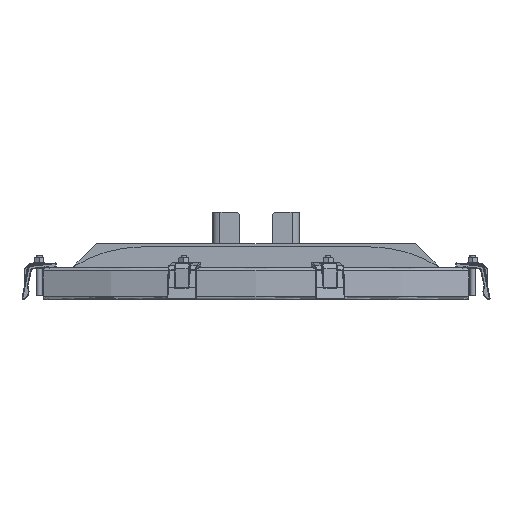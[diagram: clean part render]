
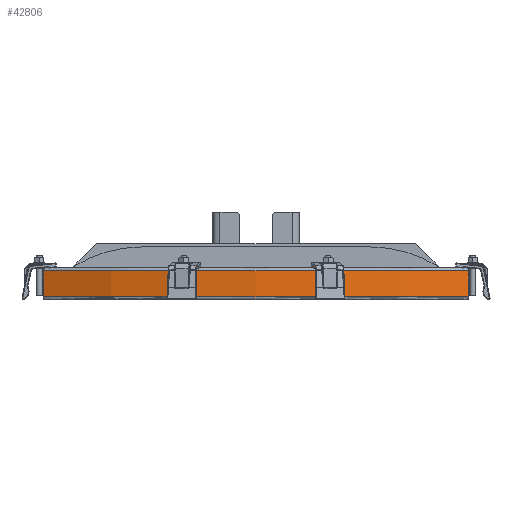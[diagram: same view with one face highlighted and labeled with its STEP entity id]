
A CAD part, front view. The second image highlights one B-rep face of the part: STEP entity #42806.
In plain terms, the highlighted cylindrical face has radius 672 mm (diameter 1344 mm), a partial arc.
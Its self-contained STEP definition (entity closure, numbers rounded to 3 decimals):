
#23 = VERTEX_POINT ( 'NONE', #27190 ) ;
#700 = EDGE_CURVE ( 'NONE', #22578, #2023, #33672, .T. ) ;
#2023 = VERTEX_POINT ( 'NONE', #22561 ) ;
#10349 = CYLINDRICAL_SURFACE ( 'NONE', #64471, 672. ) ;
#11299 = ORIENTED_EDGE ( 'NONE', *, *, #66520, .F. ) ;
#12858 = EDGE_CURVE ( 'NONE', #2023, #48007, #51920, .T. ) ;
#15498 = DIRECTION ( 'NONE',  ( 0., 0., -1. ) ) ;
#15499 = CARTESIAN_POINT ( 'NONE',  ( 0., 660., 0. ) ) ;
#16938 = FACE_OUTER_BOUND ( 'NONE', #28403, .T. ) ;
#17103 = LINE ( 'NONE', #56278, #68334 ) ;
#22339 = ORIENTED_EDGE ( 'NONE', *, *, #28436, .F. ) ;
#22561 = CARTESIAN_POINT ( 'NONE',  ( -295.273, 56.346, 40. ) ) ;
#22578 = VERTEX_POINT ( 'NONE', #34555 ) ;
#27190 = CARTESIAN_POINT ( 'NONE',  ( 295.273, 56.346, 4. ) ) ;
#28029 = AXIS2_PLACEMENT_3D ( 'NONE', #53268, #63849, #30252 ) ;
#28403 = EDGE_LOOP ( 'NONE', ( #11299, #50410, #63585, #22339 ) ) ;
#28436 = EDGE_CURVE ( 'NONE', #23, #48007, #58356, .T. ) ;
#30252 = DIRECTION ( 'NONE',  ( -1., 0., 0. ) ) ;
#33672 = CIRCLE ( 'NONE', #60548, 672. ) ;
#34555 = CARTESIAN_POINT ( 'NONE',  ( 295.273, 56.346, 40. ) ) ;
#42806 = ADVANCED_FACE ( 'NONE', ( #16938 ), #10349, .T. ) ;
#43943 = CARTESIAN_POINT ( 'NONE',  ( -295.273, 56.346, 4. ) ) ;
#48007 = VERTEX_POINT ( 'NONE', #43943 ) ;
#49201 = DIRECTION ( 'NONE',  ( 0., 0., -1. ) ) ;
#50084 = DIRECTION ( 'NONE',  ( 0., 0., -1. ) ) ;
#50410 = ORIENTED_EDGE ( 'NONE', *, *, #700, .T. ) ;
#51920 = LINE ( 'NONE', #68747, #71517 ) ;
#53268 = CARTESIAN_POINT ( 'NONE',  ( 0., 660., 4. ) ) ;
#56278 = CARTESIAN_POINT ( 'NONE',  ( 295.273, 56.346, 40. ) ) ;
#57415 = DIRECTION ( 'NONE',  ( 0., 0., -1. ) ) ;
#58356 = CIRCLE ( 'NONE', #28029, 672. ) ;
#60548 = AXIS2_PLACEMENT_3D ( 'NONE', #60847, #15498, #65236 ) ;
#60847 = CARTESIAN_POINT ( 'NONE',  ( 0., 660., 40. ) ) ;
#63585 = ORIENTED_EDGE ( 'NONE', *, *, #12858, .T. ) ;
#63849 = DIRECTION ( 'NONE',  ( 0., 0., -1. ) ) ;
#64471 = AXIS2_PLACEMENT_3D ( 'NONE', #15499, #49201, #71456 ) ;
#65236 = DIRECTION ( 'NONE',  ( -1., 0., 0. ) ) ;
#66520 = EDGE_CURVE ( 'NONE', #22578, #23, #17103, .T. ) ;
#68334 = VECTOR ( 'NONE', #50084, 1000. ) ;
#68747 = CARTESIAN_POINT ( 'NONE',  ( -295.273, 56.346, 40. ) ) ;
#71456 = DIRECTION ( 'NONE',  ( -1., 0., 0. ) ) ;
#71517 = VECTOR ( 'NONE', #57415, 1000. ) ;
